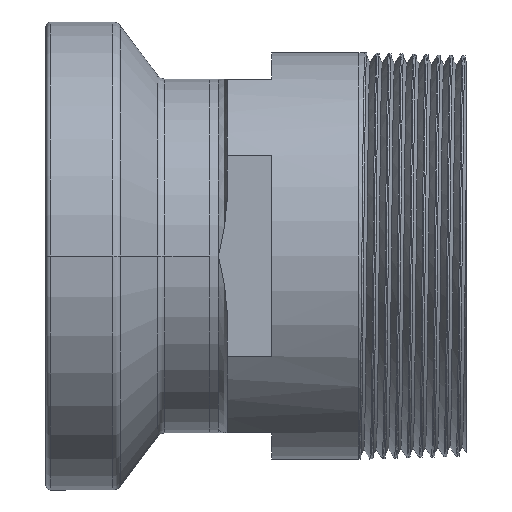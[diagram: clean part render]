
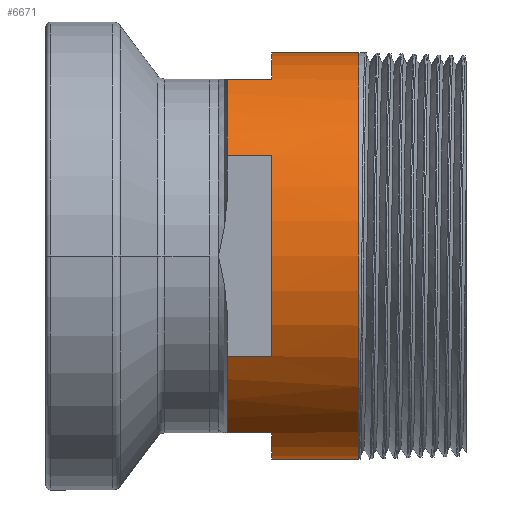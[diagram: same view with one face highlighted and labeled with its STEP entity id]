
A CAD part, front view. The second image highlights one B-rep face of the part: STEP entity #6671.
In plain terms, the highlighted cylindrical face has radius 36.5 mm (diameter 73 mm), a partial arc.
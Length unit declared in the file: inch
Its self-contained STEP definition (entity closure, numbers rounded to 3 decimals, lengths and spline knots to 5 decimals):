
#13 = CARTESIAN_POINT ( 'NONE',  ( 0., -0.70885, 1.25 ) ) ;
#176 = CIRCLE ( 'NONE', #3557, 1.437 ) ;
#240 = LINE ( 'NONE', #7228, #2882 ) ;
#392 = CIRCLE ( 'NONE', #1586, 1.437 ) ;
#568 = VERTEX_POINT ( 'NONE', #652 ) ;
#598 = EDGE_CURVE ( 'NONE', #2388, #5412, #4890, .T. ) ;
#652 = CARTESIAN_POINT ( 'NONE',  ( 0.44034, -0.70885, -1.25 ) ) ;
#726 = EDGE_CURVE ( 'NONE', #6138, #6872, #3469, .T. ) ;
#795 = DIRECTION ( 'NONE',  ( 0., -1., 0. ) ) ;
#896 = EDGE_CURVE ( 'NONE', #6138, #7541, #392, .T. ) ;
#991 = CARTESIAN_POINT ( 'NONE',  ( 0.44034, 0., 1.437 ) ) ;
#999 = VECTOR ( 'NONE', #1161, 39.37008 ) ;
#1121 = CARTESIAN_POINT ( 'NONE',  ( 0.12534, 0., 0. ) ) ;
#1161 = DIRECTION ( 'NONE',  ( -1., 0., 0. ) ) ;
#1212 = ORIENTED_EDGE ( 'NONE', *, *, #726, .F. ) ;
#1404 = LINE ( 'NONE', #13, #6704 ) ;
#1439 = VECTOR ( 'NONE', #6450, 39.37008 ) ;
#1461 = EDGE_CURVE ( 'NONE', #6872, #568, #176, .T. ) ;
#1585 = CIRCLE ( 'NONE', #1888, 1.437 ) ;
#1586 = AXIS2_PLACEMENT_3D ( 'NONE', #6062, #7476, #8989 ) ;
#1602 = VERTEX_POINT ( 'NONE', #6009 ) ;
#1860 = LINE ( 'NONE', #4655, #999 ) ;
#1888 = AXIS2_PLACEMENT_3D ( 'NONE', #8464, #2184, #795 ) ;
#1972 = DIRECTION ( 'NONE',  ( -1., 0., 0. ) ) ;
#1985 = VERTEX_POINT ( 'NONE', #5778 ) ;
#2019 = VERTEX_POINT ( 'NONE', #8478 ) ;
#2059 = ORIENTED_EDGE ( 'NONE', *, *, #6840, .F. ) ;
#2184 = DIRECTION ( 'NONE',  ( -1., 0., 0. ) ) ;
#2262 = ORIENTED_EDGE ( 'NONE', *, *, #7221, .T. ) ;
#2376 = ORIENTED_EDGE ( 'NONE', *, *, #8697, .F. ) ;
#2388 = VERTEX_POINT ( 'NONE', #6501 ) ;
#2470 = CARTESIAN_POINT ( 'NONE',  ( 0.12534, 0., 0. ) ) ;
#2646 = EDGE_CURVE ( 'NONE', #2019, #5264, #3562, .T. ) ;
#2713 = CARTESIAN_POINT ( 'NONE',  ( 0.44034, -1.25, -0.70885 ) ) ;
#2743 = AXIS2_PLACEMENT_3D ( 'NONE', #1121, #6719, #8184 ) ;
#2831 = DIRECTION ( 'NONE',  ( 1., 0., 0. ) ) ;
#2882 = VECTOR ( 'NONE', #4396, 39.37008 ) ;
#2898 = DIRECTION ( 'NONE',  ( -1., 0., 0. ) ) ;
#2926 = AXIS2_PLACEMENT_3D ( 'NONE', #3278, #1972, #7646 ) ;
#3278 = CARTESIAN_POINT ( 'NONE',  ( 0., 0., 0. ) ) ;
#3376 = FACE_OUTER_BOUND ( 'NONE', #5513, .T. ) ;
#3397 = CARTESIAN_POINT ( 'NONE',  ( 0.44034, 0., 0. ) ) ;
#3469 = LINE ( 'NONE', #6362, #4813 ) ;
#3536 = EDGE_CURVE ( 'NONE', #568, #1985, #240, .T. ) ;
#3557 = AXIS2_PLACEMENT_3D ( 'NONE', #3397, #8353, #7061 ) ;
#3562 = CIRCLE ( 'NONE', #7495, 1.437 ) ;
#3604 = VECTOR ( 'NONE', #2898, 39.37008 ) ;
#3805 = EDGE_CURVE ( 'NONE', #1985, #2388, #6685, .T. ) ;
#3922 = ORIENTED_EDGE ( 'NONE', *, *, #598, .F. ) ;
#3959 = LINE ( 'NONE', #8668, #3604 ) ;
#3976 = ORIENTED_EDGE ( 'NONE', *, *, #896, .T. ) ;
#4396 = DIRECTION ( 'NONE',  ( -1., 0., 0. ) ) ;
#4655 = CARTESIAN_POINT ( 'NONE',  ( 0., -1.25, 0.70885 ) ) ;
#4680 = CARTESIAN_POINT ( 'NONE',  ( 0.44034, -0.70885, 1.25 ) ) ;
#4813 = VECTOR ( 'NONE', #5683, 39.37008 ) ;
#4890 = LINE ( 'NONE', #7910, #1439 ) ;
#5248 = ORIENTED_EDGE ( 'NONE', *, *, #8733, .F. ) ;
#5264 = VERTEX_POINT ( 'NONE', #8935 ) ;
#5309 = DIRECTION ( 'NONE',  ( -1., 0., 0. ) ) ;
#5412 = VERTEX_POINT ( 'NONE', #2713 ) ;
#5418 = AXIS2_PLACEMENT_3D ( 'NONE', #6337, #8908, #7747 ) ;
#5513 = EDGE_LOOP ( 'NONE', ( #1212, #3976, #2262, #2059, #5248, #8615, #7460, #2376, #3922, #6085, #5686, #5980 ) ) ;
#5585 = VERTEX_POINT ( 'NONE', #991 ) ;
#5683 = DIRECTION ( 'NONE',  ( -1., 0., 0. ) ) ;
#5686 = ORIENTED_EDGE ( 'NONE', *, *, #3536, .F. ) ;
#5771 = CARTESIAN_POINT ( 'NONE',  ( 1.05634, 0., -1.437 ) ) ;
#5778 = CARTESIAN_POINT ( 'NONE',  ( 0.12534, -0.70885, -1.25 ) ) ;
#5980 = ORIENTED_EDGE ( 'NONE', *, *, #1461, .F. ) ;
#6009 = CARTESIAN_POINT ( 'NONE',  ( 0.44034, -1.25, 0.70885 ) ) ;
#6022 = VERTEX_POINT ( 'NONE', #4680 ) ;
#6062 = CARTESIAN_POINT ( 'NONE',  ( 1.05634, 0., 0. ) ) ;
#6085 = ORIENTED_EDGE ( 'NONE', *, *, #3805, .F. ) ;
#6138 = VERTEX_POINT ( 'NONE', #5771 ) ;
#6337 = CARTESIAN_POINT ( 'NONE',  ( 0.44034, 0., 0. ) ) ;
#6346 = CARTESIAN_POINT ( 'NONE',  ( 1.05634, 0., 1.437 ) ) ;
#6362 = CARTESIAN_POINT ( 'NONE',  ( 0., 0., -1.437 ) ) ;
#6450 = DIRECTION ( 'NONE',  ( 1., 0., 0. ) ) ;
#6501 = CARTESIAN_POINT ( 'NONE',  ( 0.12534, -1.25, -0.70885 ) ) ;
#6671 = ADVANCED_FACE ( 'NONE', ( #3376 ), #9011, .T. ) ;
#6685 = CIRCLE ( 'NONE', #2743, 1.437 ) ;
#6704 = VECTOR ( 'NONE', #2831, 39.37008 ) ;
#6719 = DIRECTION ( 'NONE',  ( -1., 0., 0. ) ) ;
#6729 = CIRCLE ( 'NONE', #5418, 1.437 ) ;
#6840 = EDGE_CURVE ( 'NONE', #6022, #5585, #6729, .T. ) ;
#6872 = VERTEX_POINT ( 'NONE', #8952 ) ;
#7061 = DIRECTION ( 'NONE',  ( 0., -1., 0. ) ) ;
#7105 = EDGE_CURVE ( 'NONE', #1602, #2019, #1860, .T. ) ;
#7221 = EDGE_CURVE ( 'NONE', #7541, #5585, #3959, .T. ) ;
#7228 = CARTESIAN_POINT ( 'NONE',  ( 0., -0.70885, -1.25 ) ) ;
#7460 = ORIENTED_EDGE ( 'NONE', *, *, #7105, .F. ) ;
#7476 = DIRECTION ( 'NONE',  ( -1., 0., 0. ) ) ;
#7495 = AXIS2_PLACEMENT_3D ( 'NONE', #2470, #5309, #7918 ) ;
#7541 = VERTEX_POINT ( 'NONE', #6346 ) ;
#7646 = DIRECTION ( 'NONE',  ( 0., 0., 1. ) ) ;
#7747 = DIRECTION ( 'NONE',  ( 0., -1., 0. ) ) ;
#7910 = CARTESIAN_POINT ( 'NONE',  ( 0., -1.25, -0.70885 ) ) ;
#7918 = DIRECTION ( 'NONE',  ( 0., 0., 1. ) ) ;
#8184 = DIRECTION ( 'NONE',  ( 0., 0., 1. ) ) ;
#8353 = DIRECTION ( 'NONE',  ( -1., 0., 0. ) ) ;
#8464 = CARTESIAN_POINT ( 'NONE',  ( 0.44034, 0., 0. ) ) ;
#8478 = CARTESIAN_POINT ( 'NONE',  ( 0.12534, -1.25, 0.70885 ) ) ;
#8615 = ORIENTED_EDGE ( 'NONE', *, *, #2646, .F. ) ;
#8668 = CARTESIAN_POINT ( 'NONE',  ( 0., 0., 1.437 ) ) ;
#8697 = EDGE_CURVE ( 'NONE', #5412, #1602, #1585, .T. ) ;
#8733 = EDGE_CURVE ( 'NONE', #5264, #6022, #1404, .T. ) ;
#8908 = DIRECTION ( 'NONE',  ( -1., 0., 0. ) ) ;
#8935 = CARTESIAN_POINT ( 'NONE',  ( 0.12534, -0.70885, 1.25 ) ) ;
#8952 = CARTESIAN_POINT ( 'NONE',  ( 0.44034, 0., -1.437 ) ) ;
#8989 = DIRECTION ( 'NONE',  ( 0., 0., 1. ) ) ;
#9011 = CYLINDRICAL_SURFACE ( 'NONE', #2926, 1.437 ) ;
